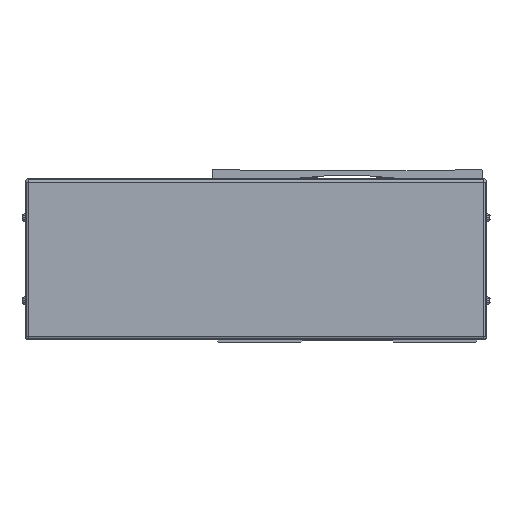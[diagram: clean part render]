
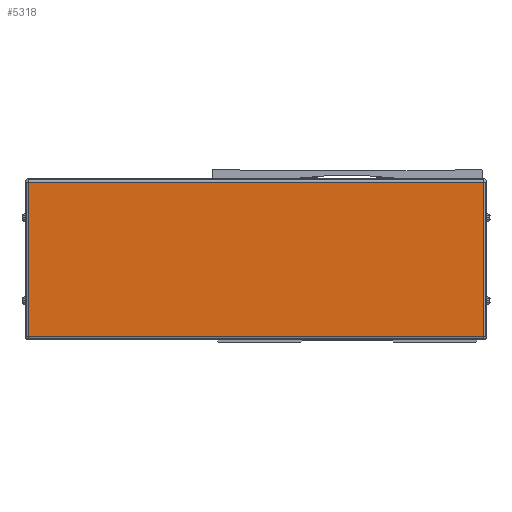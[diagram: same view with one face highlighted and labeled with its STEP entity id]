
A CAD part, front view. The second image highlights one B-rep face of the part: STEP entity #5318.
In plain terms, the highlighted planar face has unit normal (0, -1, 0).
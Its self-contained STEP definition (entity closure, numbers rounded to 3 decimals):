
#5318=ADVANCED_FACE('',(#12178),#12179,.F.);
#12178=FACE_OUTER_BOUND('',#22051,.T.);
#12179=PLANE('',#22052);
#22051=EDGE_LOOP('',(#38312,#38313,#38314,#38315));
#22052=AXIS2_PLACEMENT_3D('',#38316,#38317,#38318);
#38312=ORIENTED_EDGE('',*,*,#59466,.T.);
#38313=ORIENTED_EDGE('',*,*,#56242,.T.);
#38314=ORIENTED_EDGE('',*,*,#56398,.T.);
#38315=ORIENTED_EDGE('',*,*,#59467,.T.);
#38316=CARTESIAN_POINT('',(-655.,-522.778,-2.));
#38317=DIRECTION('',(0.,1.0,0.));
#38318=DIRECTION('',(-1.0,0.,0.));
#56242=EDGE_CURVE('',#67978,#67976,#67979,.T.);
#56398=EDGE_CURVE('',#67976,#68232,#68234,.T.);
#59466=EDGE_CURVE('',#67073,#67978,#73098,.T.);
#59467=EDGE_CURVE('',#68232,#67073,#73099,.T.);
#67073=VERTEX_POINT('',#83274);
#67976=VERTEX_POINT('',#84645);
#67978=VERTEX_POINT('',#84647);
#67979=LINE('',#84648,#84649);
#68232=VERTEX_POINT('',#85007);
#68234=LINE('',#85009,#85010);
#73098=LINE('',#92280,#92281);
#73099=LINE('',#92282,#92283);
#83274=CARTESIAN_POINT('',(-517.9,-522.778,44.5));
#84645=CARTESIAN_POINT('',(-792.1,-522.778,-48.5));
#84647=CARTESIAN_POINT('',(-792.1,-522.778,44.5));
#84648=CARTESIAN_POINT('',(-792.1,-522.778,-2.));
#84649=VECTOR('',#103703,10.0);
#85007=CARTESIAN_POINT('',(-517.9,-522.778,-48.5));
#85009=CARTESIAN_POINT('',(-655.,-522.778,-48.5));
#85010=VECTOR('',#103887,10.0);
#92280=CARTESIAN_POINT('',(-655.,-522.778,44.5));
#92281=VECTOR('',#107820,10.0);
#92282=CARTESIAN_POINT('',(-517.9,-522.778,-2.));
#92283=VECTOR('',#107821,10.0);
#103703=DIRECTION('',(0.,0.,-1.0));
#103887=DIRECTION('',(1.0,0.,0.));
#107820=DIRECTION('',(-1.0,0.,0.));
#107821=DIRECTION('',(0.,0.,1.0));
